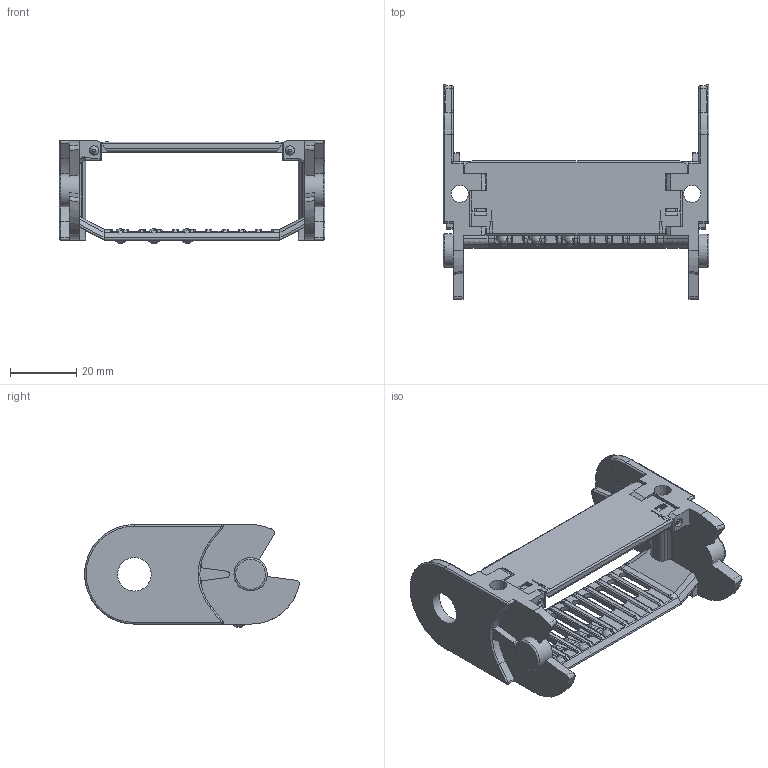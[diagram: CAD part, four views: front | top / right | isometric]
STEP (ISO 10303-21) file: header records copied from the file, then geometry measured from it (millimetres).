
FILE_DESCRIPTION((''),'2;1');
FILE_NAME('C:\Schratter\Projekte\394_VuM_UmbauBrackerPresse\Importierte Komponenten\Kol_30_080_0 Glied\Kol_30_080_0 Glied.stp','2013-02-28T11:19:22',('Schratter'),(''),'Autodesk Inventor 2013','Autodesk Inventor 2013','');
FILE_SCHEMA(('AUTOMOTIVE_DESIGN { 1 0 10303 214 1 1 1 1 }'));
Length unit declared in the file: millimetre
Products named in the file (3): Kol_30_080_0 Glied; Kol 30_080_0 Lasche; Kol 30_080_0 Klappsteg
Assembly tree (2 placements, depth 2):
  Kol_30_080_0 Glied
    Kol 30_080_0 Lasche
    Kol 30_080_0 Klappsteg
Bounding box: 80 x 64.71 x 31 mm (x, y, z)
Volume: 18436.1 mm3; surface area: 17219 mm2
Topology: 2 solids, 2 shells, 1010 faces, 2775 edges, 1793 vertices
Faces by surface type: plane 497, cylinder 233, bspline 173, torus 64, sphere 27, cone 16
Full cylindrical faces by diameter (mm): 1.166 x1, 2.048 x1, 2.8 x8, 5.1 x2, 10 x2, 10.1 x2
Entity records: 37470 total; most frequent: CARTESIAN_POINT 12641, ORIENTED_EDGE 5450, DIRECTION 4707, EDGE_CURVE 2725, VERTEX_POINT 1774, VECTOR 1627, LINE 1627, AXIS2_PLACEMENT_3D 1540
